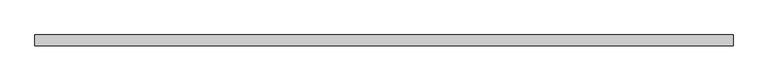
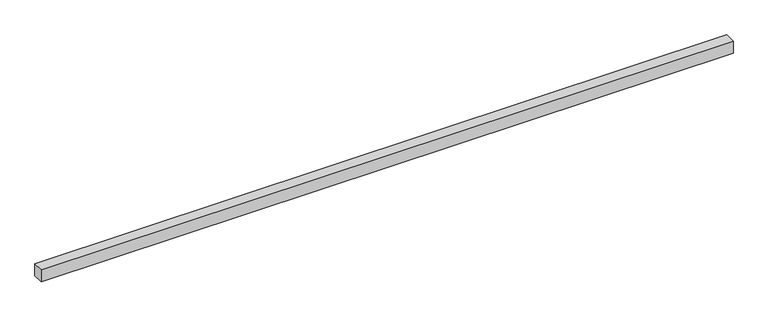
"""IFC4 building model written with IfcOpenShell, lengths in millimetres: beam geometry, Мерные пиломатериалы : 50х60."""

from ifc_helpers import new_model, si_unit, frame, origin, place, context, project, spatial, polyline, outline, extrude, source, transform, mapped, element, save


def beam_325fa391(model_context):
    return source(origin(), model_context, "Body", "SweptSolid", [
        extrude(outline(polyline([(1605.0, 25.0), (1605.0, -25.0), (-1605.0, -25.0), (-1605.0, 25.0), (1605.0, 25.0)])), frame((0.0, 0.0, -30.0), z_axis=(0.0, 0.0, 1.0), x_axis=(1.0, 0.0, 0.0)), (0.0, 0.0, 1.0), 60.0),
    ])


if __name__ == "__main__":
    model = new_model("IFC4")
    model_context = context("Model", 3, world=origin())
    ifc_project = project(units=[si_unit("LENGTHUNIT", "METRE", prefix="MILLI")], contexts=[model_context])
    site = spatial("IfcSite", under=ifc_project)
    building = spatial("IfcBuilding", under=site)
    placement = place(None, origin())
    beam_shape = beam_325fa391(model_context)
    element("IfcBeam", 1, ObjectType="Мерные пиломатериалы : 50х60", at=placement, inside=building, context=model_context, shape_type="MappedRepresentation", body=[
        mapped(beam_shape, transform((0.0, 0.0, 0.0), x_axis=(1.0, 0.0, 0.0), y_axis=(0.0, 1.0, 0.0), z_axis=(0.0, 0.0, 1.0))),
    ])
    save(model, "model.ifc")
